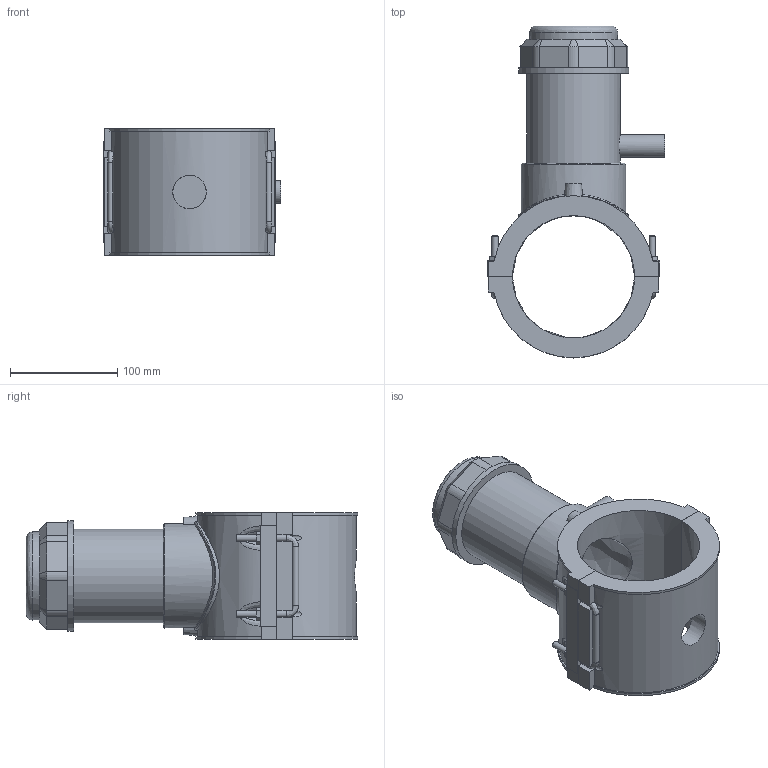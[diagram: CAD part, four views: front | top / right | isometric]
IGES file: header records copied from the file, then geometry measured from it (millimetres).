
Global section: file name: 5963BB03040005.ipt; native system: Autodesk Inventor 2019; preprocessor: unknown; author: KIM; date: 20210830.101355; units: millimetre
Bounding box: 165.59 x 309.74 x 118.11 mm (x, y, z)
Volume: 1393923.3 mm3; surface area: 221015.2 mm2
Topology: 1 solids, 3 shells, 215 faces, 569 edges, 370 vertices
Faces by surface type: plane 126, cylinder 40, revolution 28, cone 15, bspline 6
Full cylindrical faces by diameter (mm): 6 x8, 21.2 x1, 82.152 x1, 87.287 x1, 97.555 x1, 102.69 x1
